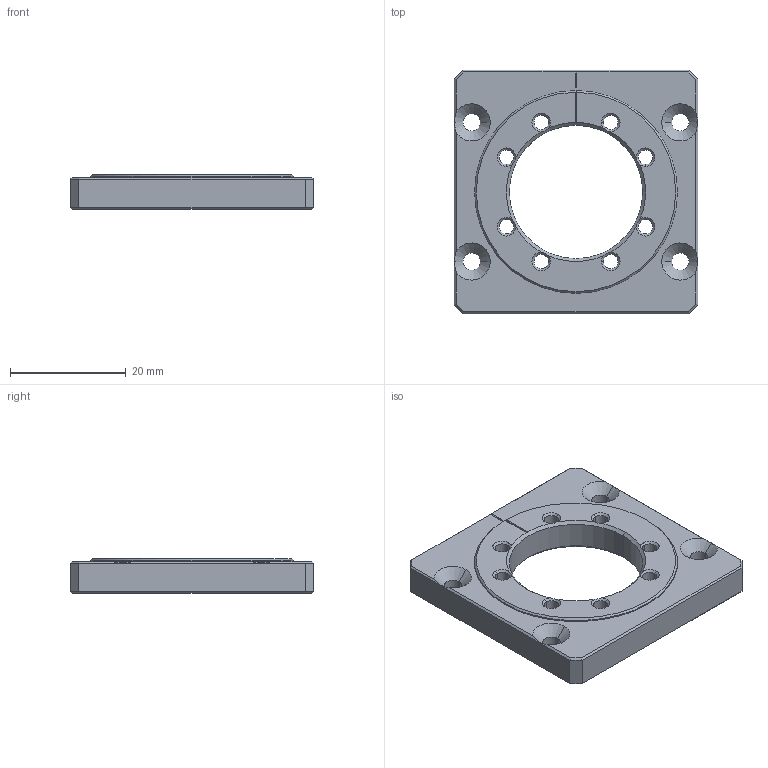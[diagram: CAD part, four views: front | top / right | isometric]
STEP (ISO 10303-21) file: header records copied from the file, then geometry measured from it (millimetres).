
FILE_DESCRIPTION((''),'2;1');
FILE_NAME('H42-IDLER','2013-01-31T',('yunever'),(''),'PRO/ENGINEER BY PARAMETRIC TECHNOLOGY CORPORATION, 2011220','PRO/ENGINEER BY PARAMETRIC TECHNOLOGY CORPORATION, 2011220','');
FILE_SCHEMA(('CONFIG_CONTROL_DESIGN'));
Length unit declared in the file: millimetre
Products named in the file (1): H42-IDLER
Bounding box: 42 x 42 x 6 mm (x, y, z)
Volume: 6903.8 mm3; surface area: 4362.5 mm2
Topology: 1 solids, 1 shells, 93 faces, 260 edges, 158 vertices
Faces by surface type: plane 33, cylinder 30, cone 30
Entity records: 3118 total; most frequent: CARTESIAN_POINT 605, DIRECTION 534, ORIENTED_EDGE 520, EDGE_CURVE 260, AXIS2_PLACEMENT_3D 201, VERTEX_POINT 158, VECTOR 132, LINE 132
